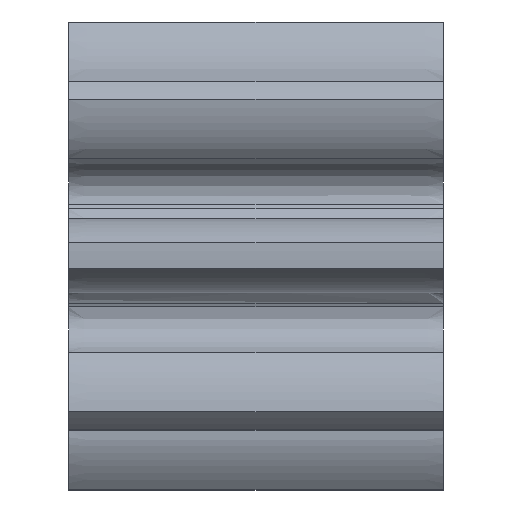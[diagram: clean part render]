
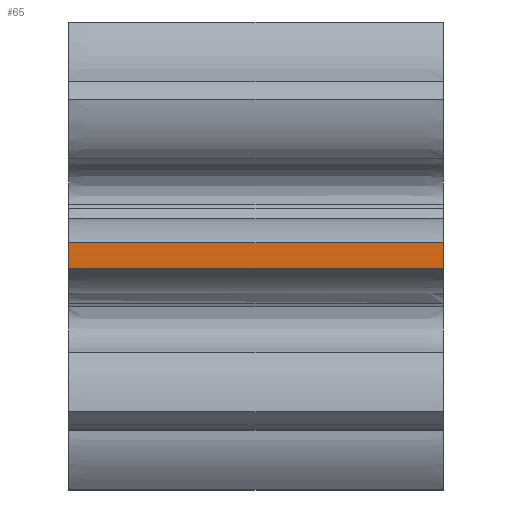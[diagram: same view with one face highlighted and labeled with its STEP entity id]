
A CAD part, top view. The second image highlights one B-rep face of the part: STEP entity #65.
In plain terms, the highlighted cylindrical face has radius 10 mm (diameter 20 mm), a partial arc.
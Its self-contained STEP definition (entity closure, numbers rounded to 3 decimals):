
#65=ADVANCED_FACE('',(#145),#147,.T.);
#145=FACE_BOUND('',#146,.T.);
#146=EDGE_LOOP('',(#539,#540,#541,#542));
#147=CYLINDRICAL_SURFACE('',#148,10.);
#148=AXIS2_PLACEMENT_3D('',#149,#150,#151);
#149=CARTESIAN_POINT('',(16.,0.,0.));
#150=DIRECTION('',(-1.,0.,0.));
#151=DIRECTION('',(0.,0.,-1.));
#539=ORIENTED_EDGE('',*,*,#2295,.T.);
#540=ORIENTED_EDGE('',*,*,#2283,.F.);
#541=ORIENTED_EDGE('',*,*,#2296,.T.);
#542=ORIENTED_EDGE('',*,*,#2203,.T.);
#2203=EDGE_CURVE('',#2356,#2354,#2357,.T.);
#2283=EDGE_CURVE('',#2514,#2516,#2517,.T.);
#2295=EDGE_CURVE('',#2354,#2516,#2535,.T.);
#2296=EDGE_CURVE('',#2514,#2356,#2536,.F.);
#2354=VERTEX_POINT('',#2825);
#2356=VERTEX_POINT('',#2866);
#2357=CIRCLE('',#2867,10.);
#2514=VERTEX_POINT('',#5403);
#2516=VERTEX_POINT('',#5444);
#2517=CIRCLE('',#5445,10.);
#2535=LINE('',#5695,#5696);
#2536=LINE('',#5698,#5699);
#2825=CARTESIAN_POINT('',(16.,0.541,9.985));
#2866=CARTESIAN_POINT('',(16.,-0.541,9.985));
#2867=AXIS2_PLACEMENT_3D('',#2868,#2869,#2870);
#2868=CARTESIAN_POINT('',(16.,0.,0.));
#2869=DIRECTION('',(-1.,0.,0.));
#2870=DIRECTION('',(0.,-0.054,0.999));
#5403=CARTESIAN_POINT('',(0.,-0.541,9.985));
#5444=CARTESIAN_POINT('',(0.,0.541,9.985));
#5445=AXIS2_PLACEMENT_3D('',#5446,#5447,#5448);
#5446=CARTESIAN_POINT('',(0.,0.,0.));
#5447=DIRECTION('',(-1.,0.,0.));
#5448=DIRECTION('',(0.,-0.054,0.999));
#5695=CARTESIAN_POINT('',(16.,0.541,9.985));
#5696=VECTOR('',#5697,1.);
#5697=DIRECTION('',(-1.,0.,0.));
#5698=CARTESIAN_POINT('',(16.,-0.541,9.985));
#5699=VECTOR('',#5700,1.);
#5700=DIRECTION('',(-1.,0.,0.));
